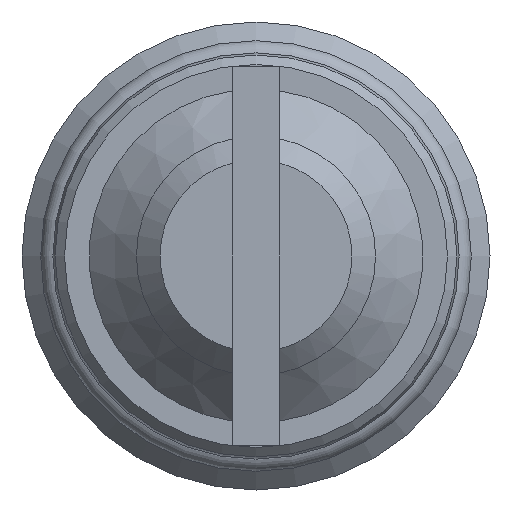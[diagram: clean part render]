
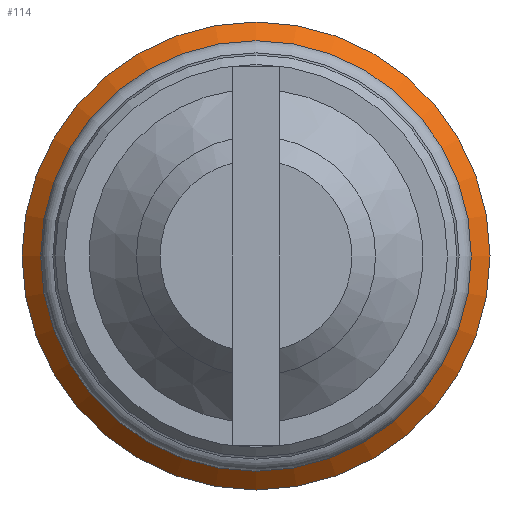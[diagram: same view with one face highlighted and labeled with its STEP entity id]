
A CAD part, left-side view. The second image highlights one B-rep face of the part: STEP entity #114.
In plain terms, the highlighted conical face has half-angle 45 degrees and reference radius 4.25 mm.
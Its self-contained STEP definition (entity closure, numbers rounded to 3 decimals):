
#114 = ADVANCED_FACE( '', ( #258, #259 ), #260, .T. );
#258 = FACE_OUTER_BOUND( '', #427, .T. );
#259 = FACE_BOUND( '', #428, .T. );
#260 = CONICAL_SURFACE( '', #429, 4.25, 0.785 );
#427 = EDGE_LOOP( '', ( #689 ) );
#428 = EDGE_LOOP( '', ( #690 ) );
#429 = AXIS2_PLACEMENT_3D( '', #691, #692, #693 );
#689 = ORIENTED_EDGE( '', *, *, #1010, .F. );
#690 = ORIENTED_EDGE( '', *, *, #1011, .T. );
#691 = CARTESIAN_POINT( '', ( 8.5, 0., 0. ) );
#692 = DIRECTION( '', ( 1., 0., 0. ) );
#693 = DIRECTION( '', ( 0., 0., -1. ) );
#1010 = EDGE_CURVE( '', #1220, #1220, #1221, .T. );
#1011 = EDGE_CURVE( '', #1222, #1222, #1223, .T. );
#1220 = VERTEX_POINT( '', #1520 );
#1221 = CIRCLE( '', #1521, 4.95 );
#1222 = VERTEX_POINT( '', #1522 );
#1223 = CIRCLE( '', #1523, 4.25 );
#1520 = CARTESIAN_POINT( '', ( 9.2, 0., -4.95 ) );
#1521 = AXIS2_PLACEMENT_3D( '', #1726, #1727, #1728 );
#1522 = CARTESIAN_POINT( '', ( 8.5, 0., -4.25 ) );
#1523 = AXIS2_PLACEMENT_3D( '', #1729, #1730, #1731 );
#1726 = CARTESIAN_POINT( '', ( 9.2, 0., 0. ) );
#1727 = DIRECTION( '', ( 1., 0., 0. ) );
#1728 = DIRECTION( '', ( 0., 0., -1. ) );
#1729 = CARTESIAN_POINT( '', ( 8.5, 0., 0. ) );
#1730 = DIRECTION( '', ( 1., 0., 0. ) );
#1731 = DIRECTION( '', ( 0., 0., -1. ) );
